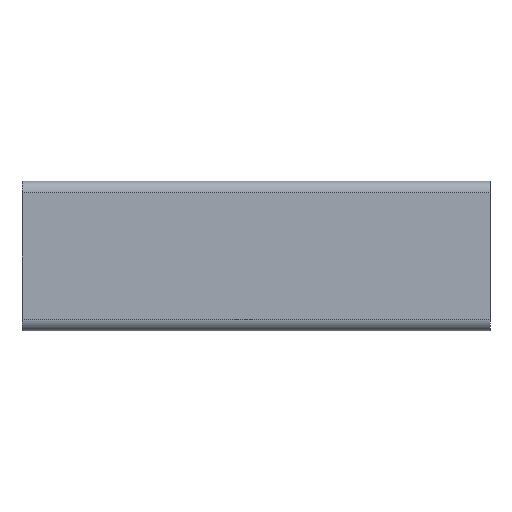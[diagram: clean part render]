
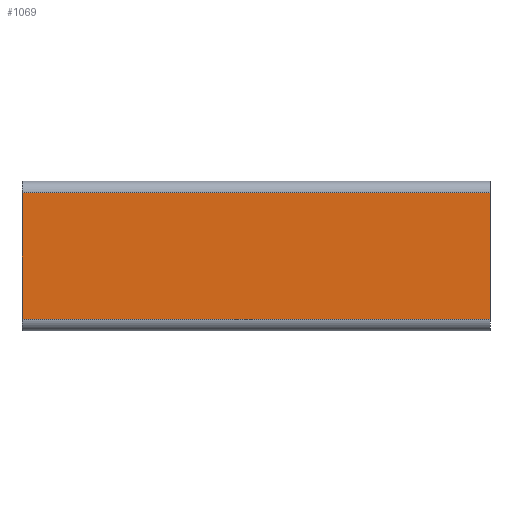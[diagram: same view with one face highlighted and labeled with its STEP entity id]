
A CAD part, front view. The second image highlights one B-rep face of the part: STEP entity #1069.
In plain terms, the highlighted planar face has unit normal (0, -1, 0).
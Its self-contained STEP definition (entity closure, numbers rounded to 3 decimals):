
#21=PLANE('',#1148);
#66=FACE_OUTER_BOUND('',#121,.T.);
#121=EDGE_LOOP('',(#751,#752,#753,#754));
#184=LINE('',#1540,#319);
#185=LINE('',#1544,#320);
#186=LINE('',#1546,#321);
#187=LINE('',#1547,#322);
#319=VECTOR('',#1243,1000.);
#320=VECTOR('',#1248,1000.);
#321=VECTOR('',#1249,1000.);
#322=VECTOR('',#1250,1000.);
#478=VERTEX_POINT('',#1537);
#479=VERTEX_POINT('',#1539);
#480=VERTEX_POINT('',#1543);
#481=VERTEX_POINT('',#1545);
#587=EDGE_CURVE('',#479,#478,#184,.T.);
#589=EDGE_CURVE('',#478,#480,#185,.T.);
#590=EDGE_CURVE('',#481,#480,#186,.T.);
#591=EDGE_CURVE('',#479,#481,#187,.T.);
#751=ORIENTED_EDGE('',*,*,#589,.T.);
#752=ORIENTED_EDGE('',*,*,#590,.F.);
#753=ORIENTED_EDGE('',*,*,#591,.F.);
#754=ORIENTED_EDGE('',*,*,#587,.T.);
#1069=ADVANCED_FACE('',(#66),#21,.F.);
#1148=AXIS2_PLACEMENT_3D('',#1542,#1246,#1247);
#1243=DIRECTION('',(-1.,0.,0.));
#1246=DIRECTION('center_axis',(0.,1.,0.));
#1247=DIRECTION('ref_axis',(0.,0.,1.));
#1248=DIRECTION('',(0.,0.,-1.));
#1249=DIRECTION('',(-1.,0.,0.));
#1250=DIRECTION('',(0.,0.,-1.));
#1537=CARTESIAN_POINT('',(0.,-9.5,20.));
#1539=CARTESIAN_POINT('',(100.,-9.5,20.));
#1540=CARTESIAN_POINT('',(100.,-9.5,20.));
#1542=CARTESIAN_POINT('Origin',(100.,-9.5,-7.));
#1543=CARTESIAN_POINT('',(0.,-9.5,-7.));
#1544=CARTESIAN_POINT('',(0.,-9.5,-7.));
#1545=CARTESIAN_POINT('',(100.,-9.5,-7.));
#1546=CARTESIAN_POINT('',(100.,-9.5,-7.));
#1547=CARTESIAN_POINT('',(100.,-9.5,-7.));
